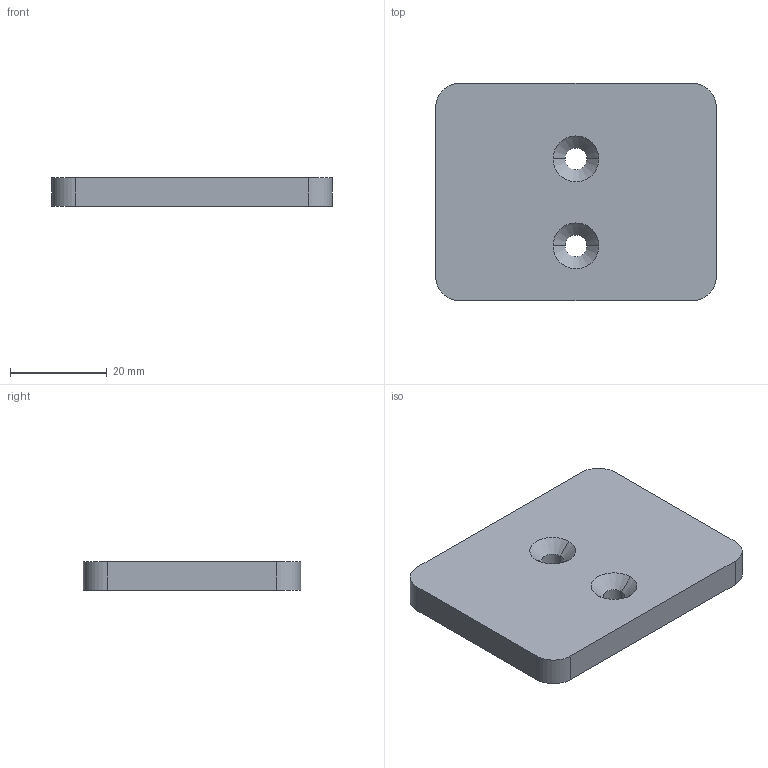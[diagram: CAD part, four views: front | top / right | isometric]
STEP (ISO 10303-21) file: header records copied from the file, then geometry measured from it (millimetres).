
FILE_DESCRIPTION (( 'STEP AP203' ), '1' );
FILE_NAME ('Extrudinaire-2022-Pellet Extruder V2.0-Template Mounting Plate.STEP', '2022-07-25T00:32:50', ( '' ), ( '' ), 'SwSTEP 2.0', 'SolidWorks 2021', '' );
FILE_SCHEMA (( 'CONFIG_CONTROL_DESIGN' ));
Length unit declared in the file: millimetre
Products named in the file (1): Extrudinaire-2022-Pellet Extruder V2.0-Template Mounting Plate
Bounding box: 58.1 x 45 x 6 mm (x, y, z)
Volume: 15242.5 mm3; surface area: 6474.4 mm2
Topology: 1 solids, 1 shells, 51 faces, 137 edges, 90 vertices
Faces by surface type: plane 25, bspline 14, cylinder 8, cone 4
Entity records: 2628 total; most frequent: CARTESIAN_POINT 1341, ORIENTED_EDGE 274, DIRECTION 205, EDGE_CURVE 137, VERTEX_POINT 90, LINE 89, VECTOR 89, AXIS2_PLACEMENT_3D 58
